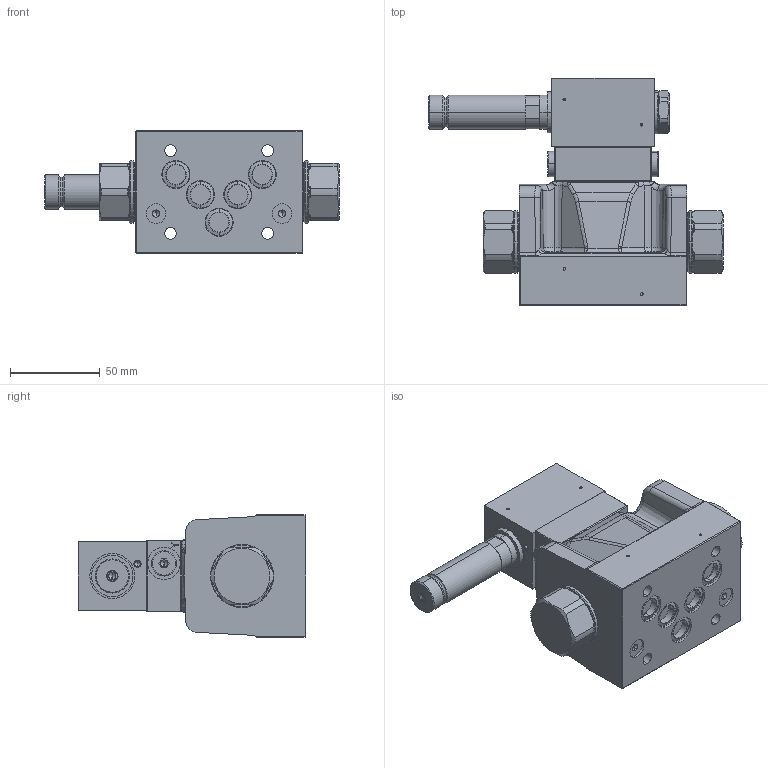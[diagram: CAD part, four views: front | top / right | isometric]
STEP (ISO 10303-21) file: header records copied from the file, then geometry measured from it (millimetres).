
FILE_DESCRIPTION (( 'STEP AP214' ), '1' );
FILE_NAME ('WVMFA10-4_2-Aside-te_pi_pe.STEP', '2017-06-15T07:26:33', ( '' ), ( '' ), 'SwSTEP 2.0', 'SolidWorks 2016', '' );
FILE_SCHEMA (( 'AUTOMOTIVE_DESIGN' ));
Length unit declared in the file: millimetre
Products named in the file (1): WVMFA10-4_2-Aside-te_pi_pe
Bounding box: 163.5 x 126.6 x 68 mm (x, y, z)
Volume: 532295 mm3; surface area: 80386.7 mm2
Topology: 9 solids, 10 shells, 1643 faces, 4272 edges, 2721 vertices
Faces by surface type: plane 739, cylinder 558, bspline 134, cone 127, torus 85
Entity records: 74409 total; most frequent: CARTESIAN_POINT 16641, ORIENTED_EDGE 8464, DIRECTION 8092, EDGE_CURVE 4232, AXIS2_PLACEMENT_3D 2911, VERTEX_POINT 2721, VECTOR 2270, LINE 2270
